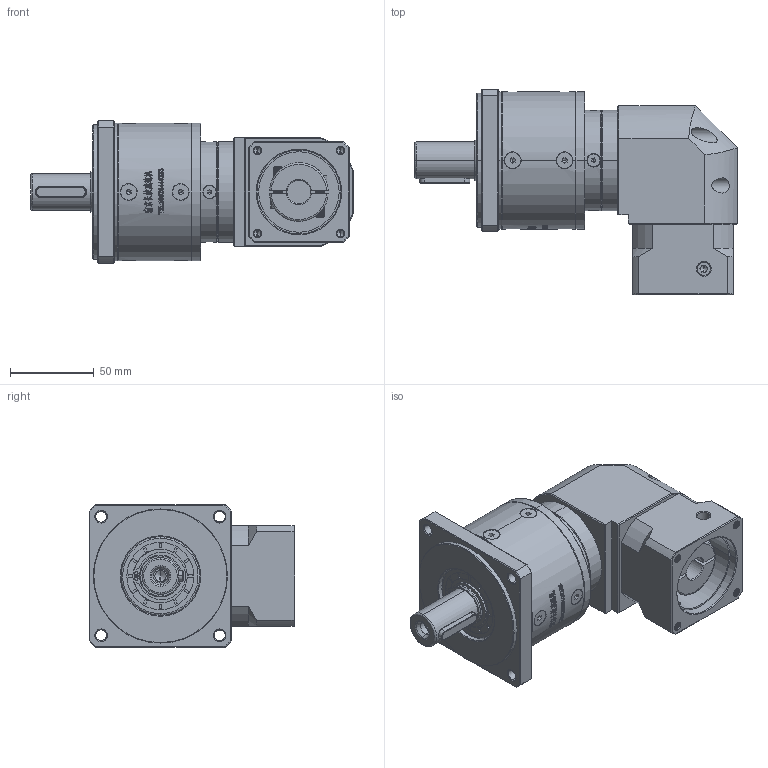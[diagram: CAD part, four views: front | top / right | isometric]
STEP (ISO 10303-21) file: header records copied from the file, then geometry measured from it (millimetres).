
FILE_DESCRIPTION (( 'STEP AP214' ), '1' );
FILE_NAME ('ZFR80-D22-L2-14-50-70-M5.step', '2022-05-08T14:53:56', ( '' ), ( 'Microsoft' ), 'SwSTEP 2.0', 'SolidWorks 2016', '' );
FILE_SCHEMA (( 'AUTOMOTIVE_DESIGN' ));
Length unit declared in the file: millimetre
Products named in the file (1): ZFR80-D22-L2-14-50-70-M5
Bounding box: 192.5 x 122.7 x 85 mm (x, y, z)
Volume: 786926.1 mm3; surface area: 102969.1 mm2
Topology: 17 solids, 18 shells, 3077 faces, 8179 edges, 5259 vertices
Faces by surface type: plane 1601, bspline 620, cylinder 468, cone 380, torus 8
Entity records: 165882 total; most frequent: CARTESIAN_POINT 60979, ORIENTED_EDGE 16266, DIRECTION 12342, EDGE_CURVE 8133, VERTEX_POINT 5259, VECTOR 4988, LINE 4988, AXIS2_PLACEMENT_3D 3677
